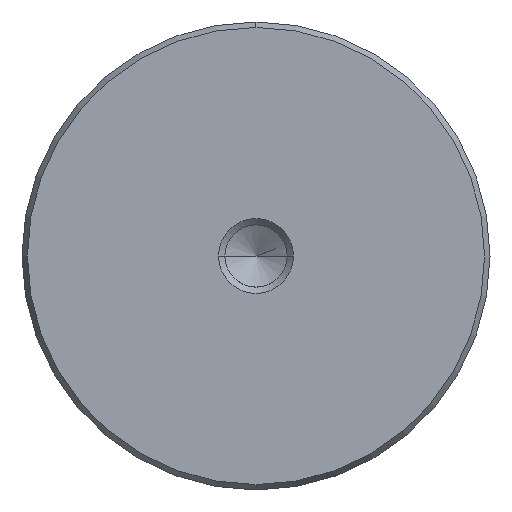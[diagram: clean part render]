
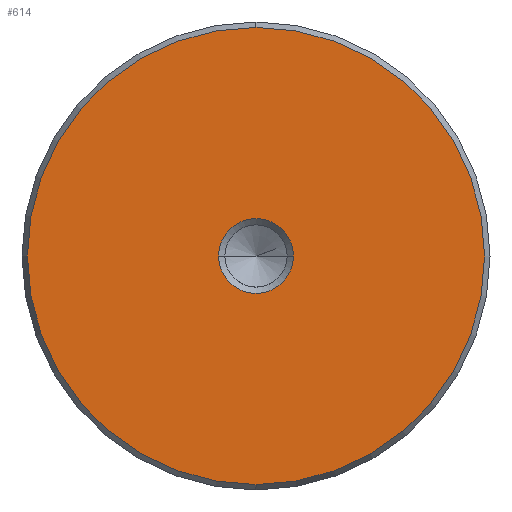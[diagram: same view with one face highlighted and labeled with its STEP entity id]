
A CAD part, left-side view. The second image highlights one B-rep face of the part: STEP entity #614.
In plain terms, the highlighted planar face has unit normal (-1, 0, 0).
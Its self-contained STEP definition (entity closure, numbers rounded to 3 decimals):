
#528=CARTESIAN_POINT('Vertex',(0.,0.,-24.423)) ;
#531=CARTESIAN_POINT('Axis2P3D Location',(0.,0.,0.)) ;
#535=CARTESIAN_POINT('Vertex',(0.,24.423,0.)) ;
#538=CARTESIAN_POINT('Axis2P3D Location',(0.,0.,0.)) ;
#542=CARTESIAN_POINT('Vertex',(0.,0.,24.423)) ;
#564=CARTESIAN_POINT('Axis2P3D Location',(0.,0.,0.)) ;
#568=CARTESIAN_POINT('Vertex',(0.,-24.423,0.)) ;
#571=CARTESIAN_POINT('Axis2P3D Location',(0.,0.,0.)) ;
#585=CARTESIAN_POINT('Axis2P3D Location',(0.,0.,0.)) ;
#596=CARTESIAN_POINT('Axis2P3D Location',(0.,0.,0.)) ;
#600=CARTESIAN_POINT('Vertex',(0.,4.,0.)) ;
#602=CARTESIAN_POINT('Vertex',(0.,-4.,0.)) ;
#605=CARTESIAN_POINT('Axis2P3D Location',(0.,0.,0.)) ;
#532=DIRECTION('Axis2P3D Direction',(1.,0.,-0.)) ;
#539=DIRECTION('Axis2P3D Direction',(1.,0.,-0.)) ;
#565=DIRECTION('Axis2P3D Direction',(1.,0.,-0.)) ;
#572=DIRECTION('Axis2P3D Direction',(1.,0.,-0.)) ;
#586=DIRECTION('Axis2P3D Direction',(1.,0.,-0.)) ;
#587=DIRECTION('Axis2P3D XDirection',(-0.,0.,-1.)) ;
#597=DIRECTION('Axis2P3D Direction',(1.,0.,-0.)) ;
#606=DIRECTION('Axis2P3D Direction',(1.,0.,-0.)) ;
#533=AXIS2_PLACEMENT_3D('Circle Axis2P3D',#531,#532,$) ;
#540=AXIS2_PLACEMENT_3D('Circle Axis2P3D',#538,#539,$) ;
#566=AXIS2_PLACEMENT_3D('Circle Axis2P3D',#564,#565,$) ;
#573=AXIS2_PLACEMENT_3D('Circle Axis2P3D',#571,#572,$) ;
#588=AXIS2_PLACEMENT_3D('Plane Axis2P3D',#585,#586,#587) ;
#598=AXIS2_PLACEMENT_3D('Circle Axis2P3D',#596,#597,$) ;
#607=AXIS2_PLACEMENT_3D('Circle Axis2P3D',#605,#606,$) ;
#591=ORIENTED_EDGE('',*,*,#537,.F.) ;
#592=ORIENTED_EDGE('',*,*,#575,.F.) ;
#593=ORIENTED_EDGE('',*,*,#570,.F.) ;
#594=ORIENTED_EDGE('',*,*,#544,.F.) ;
#611=ORIENTED_EDGE('',*,*,#604,.T.) ;
#612=ORIENTED_EDGE('',*,*,#609,.T.) ;
#613=FACE_BOUND('',#610,.T.) ;
#614=ADVANCED_FACE('720-50x250',(#595,#613),#589,.F.) ;
#534=CIRCLE('generated circle',#533,24.423) ;
#541=CIRCLE('generated circle',#540,24.423) ;
#567=CIRCLE('generated circle',#566,24.423) ;
#574=CIRCLE('generated circle',#573,24.423) ;
#599=CIRCLE('generated circle',#598,4.) ;
#608=CIRCLE('generated circle',#607,4.) ;
#537=EDGE_CURVE('',#529,#536,#534,.T.) ;
#544=EDGE_CURVE('',#536,#543,#541,.T.) ;
#570=EDGE_CURVE('',#543,#569,#567,.T.) ;
#575=EDGE_CURVE('',#569,#529,#574,.T.) ;
#604=EDGE_CURVE('',#601,#603,#599,.T.) ;
#609=EDGE_CURVE('',#603,#601,#608,.T.) ;
#590=EDGE_LOOP('',(#591,#592,#593,#594)) ;
#610=EDGE_LOOP('',(#611,#612)) ;
#595=FACE_OUTER_BOUND('',#590,.T.) ;
#589=PLANE('Plane',#588) ;
#529=VERTEX_POINT('',#528) ;
#536=VERTEX_POINT('',#535) ;
#543=VERTEX_POINT('',#542) ;
#569=VERTEX_POINT('',#568) ;
#601=VERTEX_POINT('',#600) ;
#603=VERTEX_POINT('',#602) ;
